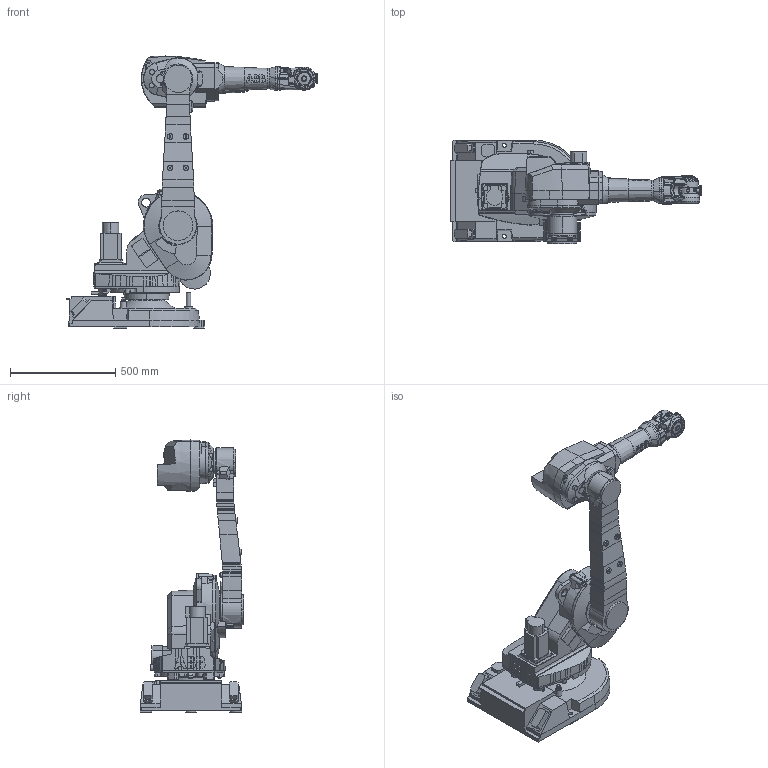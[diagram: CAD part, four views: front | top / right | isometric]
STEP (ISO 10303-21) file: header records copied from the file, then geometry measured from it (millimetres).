
FILE_DESCRIPTION (( 'STEP AP214' ), '1' );
FILE_NAME ('IRB1600_X-145.STEP', '2019-11-04T05:24:44', ( '' ), ( '' ), 'SwSTEP 2.0', 'SolidWorks 2018', '' );
FILE_SCHEMA (( 'AUTOMOTIVE_DESIGN' ));
Length unit declared in the file: millimetre
Products named in the file (1): IRB1600_X-145
Bounding box: 1197.34 x 494.27 x 1294.47 mm (x, y, z)
Volume: 99404332 mm3; surface area: 3075380 mm2
Topology: 24 solids, 25 shells, 2511 faces, 6418 edges, 4061 vertices
Faces by surface type: plane 1038, bspline 888, cylinder 330, cone 243, torus 12
Entity records: 147728 total; most frequent: CARTESIAN_POINT 66330, ORIENTED_EDGE 12782, DIRECTION 8405, EDGE_CURVE 6391, VERTEX_POINT 4061, LINE 2935, VECTOR 2935, AXIS2_PLACEMENT_3D 2735
